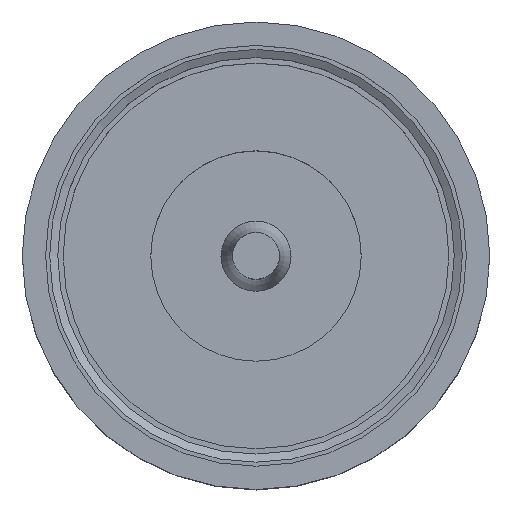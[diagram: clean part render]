
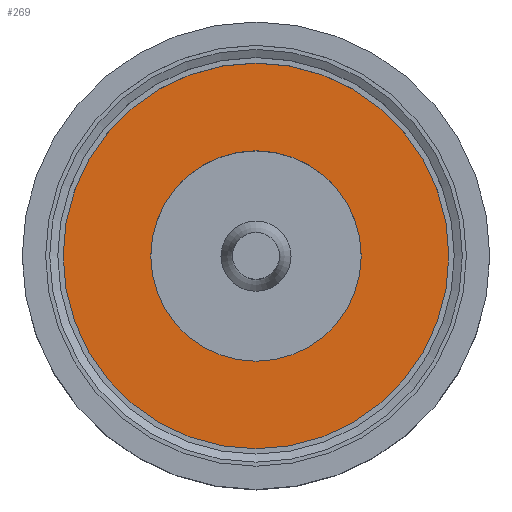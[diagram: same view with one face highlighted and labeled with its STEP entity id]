
A CAD part, top view. The second image highlights one B-rep face of the part: STEP entity #269.
In plain terms, the highlighted planar face has unit normal (0, 0, 1).
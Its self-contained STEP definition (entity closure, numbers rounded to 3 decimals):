
#210=PLANE('',#1132);
#269=ADVANCED_FACE('AS_FLANSCH',(#362,#363),#210,.T.);
#362=FACE_BOUND('',#467,.T.);
#363=FACE_BOUND('',#468,.T.);
#467=EDGE_LOOP('',(#711));
#468=EDGE_LOOP('',(#712));
#711=ORIENTED_EDGE('',*,*,#943,.T.);
#712=ORIENTED_EDGE('',*,*,#944,.F.);
#821=VERTEX_POINT('',#1730);
#822=VERTEX_POINT('',#1733);
#943=EDGE_CURVE('',#821,#821,#1009,.T.);
#944=EDGE_CURVE('',#822,#822,#1010,.T.);
#1009=CIRCLE('',#1129,4.5);
#1010=CIRCLE('',#1131,8.25);
#1129=AXIS2_PLACEMENT_3D('',#1729,#1429,#1430);
#1131=AXIS2_PLACEMENT_3D('',#1732,#1433,#1434);
#1132=AXIS2_PLACEMENT_3D('',#1734,#1435,#1436);
#1429=DIRECTION('',(0.,0.,-1.));
#1430=DIRECTION('',(-1.,0.,0.));
#1433=DIRECTION('',(0.,0.,-1.));
#1434=DIRECTION('',(-1.,0.,0.));
#1435=DIRECTION('',(0.,0.,1.));
#1436=DIRECTION('',(1.,0.,0.));
#1729=CARTESIAN_POINT('',(0.,0.,8.4));
#1730=CARTESIAN_POINT('',(-4.5,0.,8.4));
#1732=CARTESIAN_POINT('',(0.,0.,8.4));
#1733=CARTESIAN_POINT('',(-8.25,0.,8.4));
#1734=CARTESIAN_POINT('',(8.25,0.,8.4));
